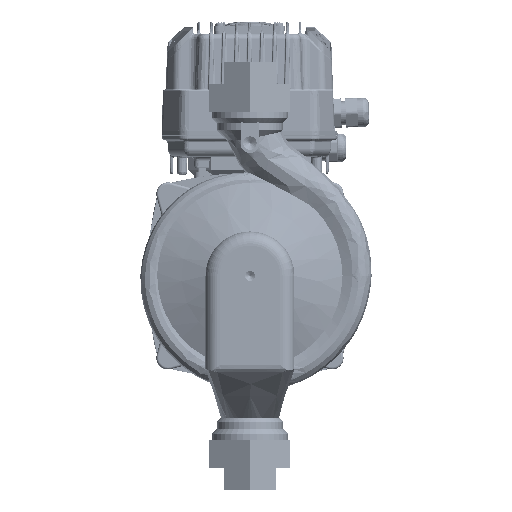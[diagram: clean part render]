
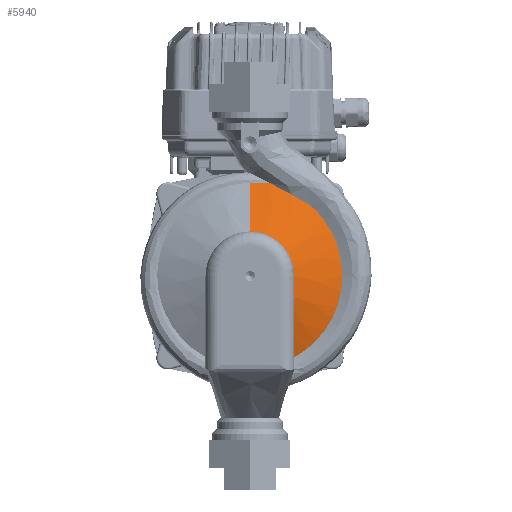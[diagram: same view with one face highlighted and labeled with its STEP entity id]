
A CAD part, front view. The second image highlights one B-rep face of the part: STEP entity #5940.
In plain terms, the highlighted conical face has half-angle 69.044 degrees and reference radius 61.5 mm.
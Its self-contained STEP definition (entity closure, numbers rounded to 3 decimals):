
#5940=ADVANCED_FACE('',(#15392),#15393,.T.);
#6248=EDGE_CURVE('',#15464,#15873,#15876,.T.);
#6260=EDGE_CURVE('',#15873,#15889,#15892,.T.);
#6308=EDGE_CURVE('',#15950,#15953,#15954,.T.);
#6586=EDGE_CURVE('',#15455,#15950,#16307,.T.);
#6842=EDGE_CURVE('',#15953,#15889,#16626,.T.);
#15392=FACE_OUTER_BOUND('',#32667,.T.);
#15393=CONICAL_SURFACE('',#32668,61.5,1.205);
#15455=VERTEX_POINT('',#32972);
#15464=VERTEX_POINT('',#33019);
#15873=VERTEX_POINT('',#34172);
#15876=CIRCLE('',#34177,38.0);
#15889=VERTEX_POINT('',#34200);
#15892=(B_SPLINE_CURVE(2,(#34210,#34211,#34212),.UNSPECIFIED.,.F.,.F.)B_SPLINE_CURVE_WITH_KNOTS((3,3),(73.91,146.369),.UNSPECIFIED.)RATIONAL_B_SPLINE_CURVE((1.0,1.248,1.01))BOUNDED_CURVE()REPRESENTATION_ITEM('')GEOMETRIC_REPRESENTATION_ITEM()CURVE());
#15950=VERTEX_POINT('',#34411);
#15953=VERTEX_POINT('',#34418);
#15954=B_SPLINE_CURVE_WITH_KNOTS('',3,(#34419,#34420,#34421,#34422,#34423,#34424,#34425,#34426,#34427,#34428,#34429,#34430,#34431,#34432,#34433,#34434,#34435,#34436,#34437,#34438),.UNSPECIFIED.,.F.,.F.,(4,2,2,2,2,2,2,2,2,4),(-104.437,-98.617,-93.719,-74.851,-67.993,-60.896,-49.733,-38.957,-22.812,0.0),.UNSPECIFIED.);
#16307=B_SPLINE_CURVE_WITH_KNOTS('',3,(#35255,#35256,#35257,#35258,#35259,#35260,#35261,#35262,#35263,#35264),.UNSPECIFIED.,.F.,.F.,(4,2,2,2,4),(-319.433,-307.16,-294.533,-288.989,-287.256),.UNSPECIFIED.);
#16626=B_SPLINE_CURVE_WITH_KNOTS('',3,(#36339,#36340,#36341,#36342,#36343,#36344,#36345,#36346,#36347,#36348,#36349,#36350,#36351,#36352),.UNSPECIFIED.,.F.,.F.,(4,2,2,2,2,2,4),(-270.774,-264.184,-253.775,-236.987,-211.904,-199.825,-199.251),.UNSPECIFIED.);
#32667=EDGE_LOOP('',(#103364,#103365,#103366,#103367,#103368,#103369));
#32668=AXIS2_PLACEMENT_3D('',#103370,#103371,#103372);
#32972=CARTESIAN_POINT('',(0.,79.539,-16.092));
#33019=CARTESIAN_POINT('',(0.,38.0,-32.0));
#34172=CARTESIAN_POINT('',(-38.0,0.0,-32.0));
#34177=AXIS2_PLACEMENT_3D('',#103662,#103663,#103664);
#34200=CARTESIAN_POINT('',(-38.,-69.431,-16.24));
#34210=CARTESIAN_POINT('',(-38.0,0.0,-32.0));
#34211=CARTESIAN_POINT('',(-38.0,-22.521,-32.));
#34212=CARTESIAN_POINT('',(-38.,-69.431,-16.24));
#34411=CARTESIAN_POINT('',(-16.97,79.408,-15.455));
#34418=CARTESIAN_POINT('',(-79.153,0.0,-16.239));
#34419=CARTESIAN_POINT('',(-16.97,79.408,-15.455));
#34420=CARTESIAN_POINT('',(-19.57,78.097,-15.738));
#34421=CARTESIAN_POINT('',(-22.097,76.818,-15.959));
#34422=CARTESIAN_POINT('',(-26.646,74.373,-16.31));
#34423=CARTESIAN_POINT('',(-27.74,73.718,-16.398));
#34424=CARTESIAN_POINT('',(-36.393,68.949,-16.844));
#34425=CARTESIAN_POINT('',(-42.76,66.043,-16.526));
#34426=CARTESIAN_POINT('',(-50.273,61.137,-16.253));
#34427=CARTESIAN_POINT('',(-51.938,59.884,-16.206));
#34428=CARTESIAN_POINT('',(-55.35,57.02,-16.132));
#34429=CARTESIAN_POINT('',(-56.979,55.472,-16.11));
#34430=CARTESIAN_POINT('',(-60.957,51.221,-16.091));
#34431=CARTESIAN_POINT('',(-63.13,48.419,-16.114));
#34432=CARTESIAN_POINT('',(-66.998,42.6,-16.175));
#34433=CARTESIAN_POINT('',(-68.692,39.616,-16.213));
#34434=CARTESIAN_POINT('',(-72.555,31.949,-16.256));
#34435=CARTESIAN_POINT('',(-74.368,27.61,-16.242));
#34436=CARTESIAN_POINT('',(-78.016,15.146,-16.257));
#34437=CARTESIAN_POINT('',(-79.077,7.603,-16.269));
#34438=CARTESIAN_POINT('',(-79.153,0.0,-16.239));
#35255=CARTESIAN_POINT('',(56.39,55.451,-16.265));
#35256=CARTESIAN_POINT('',(49.138,62.817,-16.267));
#35257=CARTESIAN_POINT('',(41.33,68.073,-16.22));
#35258=CARTESIAN_POINT('',(26.068,75.205,-16.246));
#35259=CARTESIAN_POINT('',(15.573,78.555,-16.312));
#35260=CARTESIAN_POINT('',(-3.613,79.792,-16.046));
#35261=CARTESIAN_POINT('',(-8.437,79.615,-15.928));
#35262=CARTESIAN_POINT('',(-13.606,79.442,-15.689));
#35263=CARTESIAN_POINT('',(-15.463,79.362,-15.588));
#35264=CARTESIAN_POINT('',(-16.97,79.408,-15.455));
#36339=CARTESIAN_POINT('',(-79.153,0.0,-16.239));
#36340=CARTESIAN_POINT('',(-79.115,-2.624,-16.254));
#36341=CARTESIAN_POINT('',(-78.963,-5.246,-16.262));
#36342=CARTESIAN_POINT('',(-78.263,-11.98,-16.272));
#36343=CARTESIAN_POINT('',(-77.538,-16.065,-16.269));
#36344=CARTESIAN_POINT('',(-74.829,-26.551,-16.253));
#36345=CARTESIAN_POINT('',(-72.367,-32.757,-16.239));
#36346=CARTESIAN_POINT('',(-64.233,-47.318,-16.24));
#36347=CARTESIAN_POINT('',(-57.565,-55.042,-16.273));
#36348=CARTESIAN_POINT('',(-46.609,-64.107,-16.25));
#36349=CARTESIAN_POINT('',(-42.729,-66.805,-16.237));
#36350=CARTESIAN_POINT('',(-38.396,-69.215,-16.24));
#36351=CARTESIAN_POINT('',(-38.198,-69.324,-16.24));
#36352=CARTESIAN_POINT('',(-38.,-69.431,-16.24));
#103364=ORIENTED_EDGE('',*,*,#142359,.T.);
#103365=ORIENTED_EDGE('',*,*,#6248,.T.);
#103366=ORIENTED_EDGE('',*,*,#6260,.T.);
#103367=ORIENTED_EDGE('',*,*,#6842,.F.);
#103368=ORIENTED_EDGE('',*,*,#6308,.F.);
#103369=ORIENTED_EDGE('',*,*,#6586,.F.);
#103370=CARTESIAN_POINT('',(0.0,0.0,-23.0));
#103371=DIRECTION('',(-0.0,0.0,1.0));
#103372=DIRECTION('',(0.0,-1.0,0.0));
#103662=CARTESIAN_POINT('',(0.0,0.0,-32.0));
#103663=DIRECTION('',(0.0,0.0,1.0));
#103664=DIRECTION('',(0.0,-1.0,0.0));
#142359=EDGE_CURVE('',#15455,#15464,#170288,.T.);
#170288=LINE('',#194329,#194330);
#194329=CARTESIAN_POINT('',(0.,61.5,-23.0));
#194330=VECTOR('',#279490,1.0);
#279490=DIRECTION('',(0.,-0.934,-0.358));
